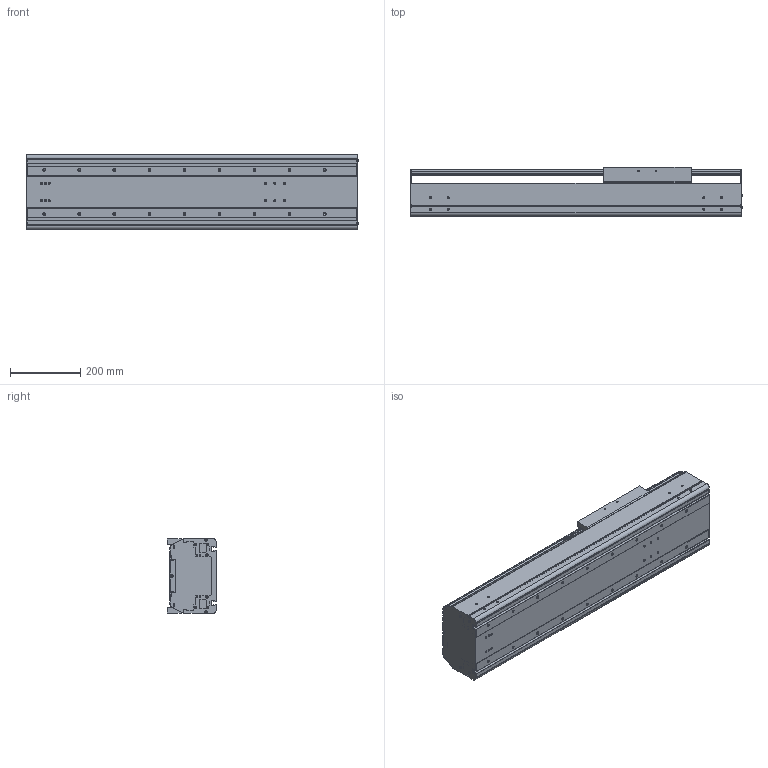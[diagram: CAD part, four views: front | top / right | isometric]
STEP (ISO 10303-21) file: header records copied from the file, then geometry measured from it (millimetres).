
FILE_DESCRIPTION((''),'2;1');
FILE_NAME('BE60G-ST-M_B-50_IGS_PRT','2017-06-18T',(' '),(''),'PRO/ENGINEER BY PARAMETRIC TECHNOLOGY CORPORATION, 2015030','PRO/ENGINEER BY PARAMETRIC TECHNOLOGY CORPORATION, 2015030','');
FILE_SCHEMA(('CONFIG_CONTROL_DESIGN'));
Length unit declared in the file: millimetre
Products named in the file (1): BE60G-ST-M_B-50_IGS_PRT
Bounding box: 947.4 x 140 x 214 mm (x, y, z)
Volume: 7954362.8 mm3; surface area: 2114713.5 mm2
Topology: 2 solids, 116 shells, 1418 faces, 3926 edges, 2573 vertices
Faces by surface type: cylinder 696, plane 586, cone 88, sphere 24, torus 24
Entity records: 46832 total; most frequent: CARTESIAN_POINT 10152, DIRECTION 7782, ORIENTED_EDGE 7232, EDGE_CURVE 3840, AXIS2_PLACEMENT_3D 2873, VERTEX_POINT 2572, VECTOR 2036, LINE 2036
